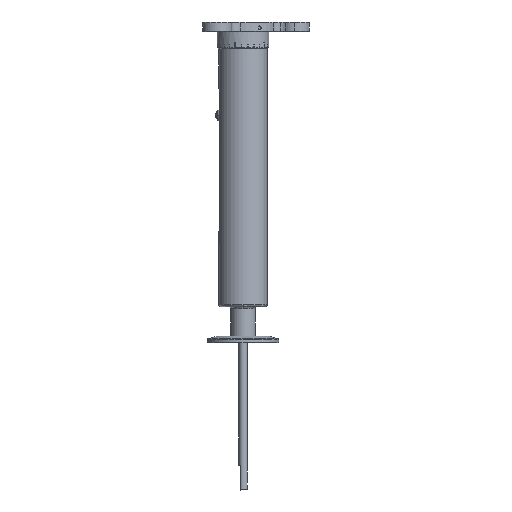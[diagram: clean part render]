
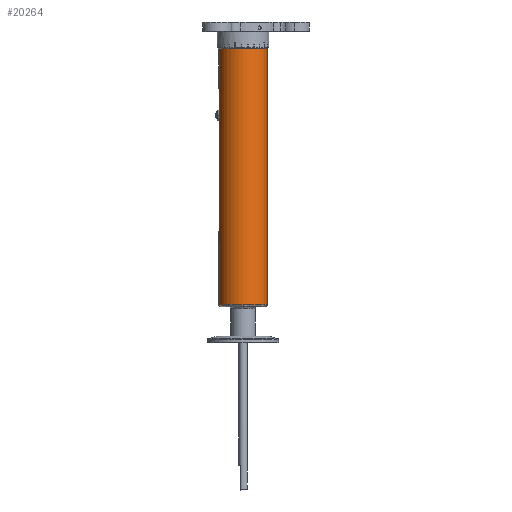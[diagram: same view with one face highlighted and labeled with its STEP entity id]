
A CAD part, left-side view. The second image highlights one B-rep face of the part: STEP entity #20264.
In plain terms, the highlighted cylindrical face has radius 18.733 mm (diameter 37.465 mm), a partial arc.
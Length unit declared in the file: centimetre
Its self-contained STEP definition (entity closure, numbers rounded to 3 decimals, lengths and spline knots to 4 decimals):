
#1137 = CARTESIAN_POINT ( 'NONE',  ( -0.4763, 1.8117, 19.1618 ) ) ;
#1144 = CARTESIAN_POINT ( 'NONE',  ( -0.4763, 1.8117, 8.8748 ) ) ;
#1207 = CARTESIAN_POINT ( 'NONE',  ( 0., -1.8733, 2.9261 ) ) ;
#1779 = DIRECTION ( 'NONE',  ( 0., -1., 0. ) ) ;
#1783 = DIRECTION ( 'NONE',  ( 0., 0., 1. ) ) ;
#1909 = CARTESIAN_POINT ( 'NONE',  ( 0., 0., 3.0175 ) ) ;
#2646 = LINE ( 'NONE', #38893, #2836 ) ;
#2789 = CIRCLE ( 'NONE', #27589, 1.8733 ) ;
#2836 = VECTOR ( 'NONE', #38912, 100. ) ;
#3047 = FACE_OUTER_BOUND ( 'NONE', #26487, .T. ) ;
#3069 = LINE ( 'NONE', #21314, #3525 ) ;
#3102 = CYLINDRICAL_SURFACE ( 'NONE', #27346, 1.8733 ) ;
#3105 = CIRCLE ( 'NONE', #27495, 1.8733 ) ;
#3157 = VECTOR ( 'NONE', #21343, 100. ) ;
#3251 = CIRCLE ( 'NONE', #26782, 1.8733 ) ;
#3301 = VECTOR ( 'NONE', #21364, 100. ) ;
#3508 = LINE ( 'NONE', #21326, #3157 ) ;
#3525 = VECTOR ( 'NONE', #21309, 100. ) ;
#3596 = LINE ( 'NONE', #21347, #3301 ) ;
#10290 = ORIENTED_EDGE ( 'NONE', *, *, #21718, .T. ) ;
#10866 = CARTESIAN_POINT ( 'NONE',  ( 0., -1.8732, 22.5196 ) ) ;
#10884 = CARTESIAN_POINT ( 'NONE',  ( 0., 1.8732, 19.638 ) ) ;
#10928 = CARTESIAN_POINT ( 'NONE',  ( 0., 1.8733, 22.5196 ) ) ;
#10965 = CARTESIAN_POINT ( 'NONE',  ( 0., 1.8732, 2.9261 ) ) ;
#17532 = CARTESIAN_POINT ( 'NONE',  ( 0., 1.8732, 8.3985 ) ) ;
#20264 = ADVANCED_FACE ( 'NONE', ( #3047 ), #3102, .T. ) ;
#21309 = DIRECTION ( 'NONE',  ( 0., 0., 1. ) ) ;
#21314 = CARTESIAN_POINT ( 'NONE',  ( 0., -1.8733, 3.0175 ) ) ;
#21326 = CARTESIAN_POINT ( 'NONE',  ( 0., 1.8732, 3.0175 ) ) ;
#21343 = DIRECTION ( 'NONE',  ( 0., 0., 1. ) ) ;
#21347 = CARTESIAN_POINT ( 'NONE',  ( 0., 1.8732, 3.0175 ) ) ;
#21364 = DIRECTION ( 'NONE',  ( 0., 0., 1. ) ) ;
#21464 = CARTESIAN_POINT ( 'NONE',  ( 0., 0., 2.9261 ) ) ;
#21465 = DIRECTION ( 'NONE',  ( 0., 0., 1. ) ) ;
#21466 = DIRECTION ( 'NONE',  ( 0., -1., 0. ) ) ;
#21717 = EDGE_CURVE ( 'NONE', #27140, #24308, #3105, .T. ) ;
#21718 = EDGE_CURVE ( 'NONE', #26595, #26974, #2789, .T. ) ;
#21720 = EDGE_CURVE ( 'NONE', #26770, #24093, #42883, .T. ) ;
#21722 = EDGE_CURVE ( 'NONE', #24093, #24088, #2646, .T. ) ;
#21723 = EDGE_CURVE ( 'NONE', #24088, #26489, #42884, .T. ) ;
#22335 = ORIENTED_EDGE ( 'NONE', *, *, #25538, .T. ) ;
#22338 = ORIENTED_EDGE ( 'NONE', *, *, #21720, .T. ) ;
#22340 = ORIENTED_EDGE ( 'NONE', *, *, #21723, .T. ) ;
#22415 = ORIENTED_EDGE ( 'NONE', *, *, #21717, .T. ) ;
#22604 = ORIENTED_EDGE ( 'NONE', *, *, #25485, .T. ) ;
#22605 = ORIENTED_EDGE ( 'NONE', *, *, #25498, .F. ) ;
#22614 = ORIENTED_EDGE ( 'NONE', *, *, #21722, .T. ) ;
#22662 = ORIENTED_EDGE ( 'NONE', *, *, #25492, .F. ) ;
#24088 = VERTEX_POINT ( 'NONE', #1144 ) ;
#24093 = VERTEX_POINT ( 'NONE', #1137 ) ;
#24151 = VERTEX_POINT ( 'NONE', #1207 ) ;
#24308 = VERTEX_POINT ( 'NONE', #41295 ) ;
#25485 = EDGE_CURVE ( 'NONE', #24151, #26595, #3069, .T. ) ;
#25492 = EDGE_CURVE ( 'NONE', #26770, #26974, #3508, .T. ) ;
#25498 = EDGE_CURVE ( 'NONE', #27140, #26489, #3596, .T. ) ;
#25538 = EDGE_CURVE ( 'NONE', #24308, #24151, #3251, .T. ) ;
#26487 = EDGE_LOOP ( 'NONE', ( #22605, #22415, #22335, #22604, #10290, #22662, #22338, #22614, #22340 ) ) ;
#26489 = VERTEX_POINT ( 'NONE', #17532 ) ;
#26595 = VERTEX_POINT ( 'NONE', #10866 ) ;
#26770 = VERTEX_POINT ( 'NONE', #10884 ) ;
#26782 = AXIS2_PLACEMENT_3D ( 'NONE', #21464, #21465, #21466 ) ;
#26974 = VERTEX_POINT ( 'NONE', #10928 ) ;
#27140 = VERTEX_POINT ( 'NONE', #10965 ) ;
#27346 = AXIS2_PLACEMENT_3D ( 'NONE', #1909, #1783, #1779 ) ;
#27495 = AXIS2_PLACEMENT_3D ( 'NONE', #38883, #38884, #38885 ) ;
#27589 = AXIS2_PLACEMENT_3D ( 'NONE', #38888, #38889, #38890 ) ;
#38883 = CARTESIAN_POINT ( 'NONE',  ( 0., 0., 2.9261 ) ) ;
#38884 = DIRECTION ( 'NONE',  ( 0., 0., 1. ) ) ;
#38885 = DIRECTION ( 'NONE',  ( 0., -1., 0. ) ) ;
#38886 = CARTESIAN_POINT ( 'NONE',  ( -0.0316, 1.8733, 19.638 ) ) ;
#38887 = CARTESIAN_POINT ( 'NONE',  ( -0.0626, 1.8725, 19.6349 ) ) ;
#38888 = CARTESIAN_POINT ( 'NONE',  ( 0., 0., 22.5196 ) ) ;
#38889 = DIRECTION ( 'NONE',  ( 0., 0., -1. ) ) ;
#38890 = DIRECTION ( 'NONE',  ( 0., -1., 0. ) ) ;
#38891 = CARTESIAN_POINT ( 'NONE',  ( -0.4731, 1.8125, 8.8121 ) ) ;
#38892 = CARTESIAN_POINT ( 'NONE',  ( 0., 1.8732, 19.638 ) ) ;
#38893 = CARTESIAN_POINT ( 'NONE',  ( -0.4763, 1.8117, 3.0175 ) ) ;
#38894 = CARTESIAN_POINT ( 'NONE',  ( -0.1236, 1.8694, 19.6227 ) ) ;
#38895 = CARTESIAN_POINT ( 'NONE',  ( -0.1539, 1.8671, 19.6135 ) ) ;
#38896 = CARTESIAN_POINT ( 'NONE',  ( -0.2115, 1.8615, 19.5896 ) ) ;
#38897 = CARTESIAN_POINT ( 'NONE',  ( -0.2388, 1.8581, 19.575 ) ) ;
#38898 = CARTESIAN_POINT ( 'NONE',  ( -0.2905, 1.8508, 19.5404 ) ) ;
#38899 = CARTESIAN_POINT ( 'NONE',  ( -0.3148, 1.8467, 19.5204 ) ) ;
#38900 = CARTESIAN_POINT ( 'NONE',  ( -0.3585, 1.8388, 19.4767 ) ) ;
#38901 = CARTESIAN_POINT ( 'NONE',  ( -0.3782, 1.8348, 19.4529 ) ) ;
#38902 = CARTESIAN_POINT ( 'NONE',  ( -0.413, 1.8272, 19.4009 ) ) ;
#38903 = CARTESIAN_POINT ( 'NONE',  ( -0.4277, 1.8238, 19.3734 ) ) ;
#38904 = CARTESIAN_POINT ( 'NONE',  ( -0.4516, 1.818, 19.3162 ) ) ;
#38905 = CARTESIAN_POINT ( 'NONE',  ( -0.4608, 1.8157, 19.2862 ) ) ;
#38906 = CARTESIAN_POINT ( 'NONE',  ( -0.4731, 1.8125, 19.2245 ) ) ;
#38907 = CARTESIAN_POINT ( 'NONE',  ( -0.4763, 1.8117, 19.1933 ) ) ;
#38908 = CARTESIAN_POINT ( 'NONE',  ( -0.4763, 1.8117, 19.1618 ) ) ;
#38910 = CARTESIAN_POINT ( 'NONE',  ( -0.4763, 1.8117, 8.8432 ) ) ;
#38912 = DIRECTION ( 'NONE',  ( 0., 0., -1. ) ) ;
#38914 = CARTESIAN_POINT ( 'NONE',  ( -0.4763, 1.8117, 8.8748 ) ) ;
#38916 = CARTESIAN_POINT ( 'NONE',  ( -0.461, 1.8157, 8.7511 ) ) ;
#38917 = CARTESIAN_POINT ( 'NONE',  ( -0.4518, 1.818, 8.7208 ) ) ;
#38918 = CARTESIAN_POINT ( 'NONE',  ( -0.4278, 1.8238, 8.6633 ) ) ;
#38919 = CARTESIAN_POINT ( 'NONE',  ( -0.4132, 1.8272, 8.636 ) ) ;
#38920 = CARTESIAN_POINT ( 'NONE',  ( -0.3787, 1.8347, 8.5843 ) ) ;
#38921 = CARTESIAN_POINT ( 'NONE',  ( -0.3587, 1.8387, 8.56 ) ) ;
#38922 = CARTESIAN_POINT ( 'NONE',  ( -0.315, 1.8467, 8.5162 ) ) ;
#38923 = CARTESIAN_POINT ( 'NONE',  ( -0.2911, 1.8507, 8.4966 ) ) ;
#38924 = CARTESIAN_POINT ( 'NONE',  ( -0.2392, 1.8581, 8.4617 ) ) ;
#38925 = CARTESIAN_POINT ( 'NONE',  ( -0.2117, 1.8615, 8.447 ) ) ;
#38926 = CARTESIAN_POINT ( 'NONE',  ( -0.1545, 1.8671, 8.4232 ) ) ;
#38927 = CARTESIAN_POINT ( 'NONE',  ( -0.1244, 1.8694, 8.414 ) ) ;
#38928 = CARTESIAN_POINT ( 'NONE',  ( -0.0628, 1.8725, 8.4016 ) ) ;
#38929 = CARTESIAN_POINT ( 'NONE',  ( -0.0316, 1.8732, 8.3985 ) ) ;
#38930 = CARTESIAN_POINT ( 'NONE',  ( 0., 1.8732, 8.3985 ) ) ;
#41295 = CARTESIAN_POINT ( 'NONE',  ( -1.8733, 0., 2.9261 ) ) ;
#42883 = B_SPLINE_CURVE_WITH_KNOTS ( 'NONE', 3,
 ( #38892, #38886, #38887, #38894, #38895, #38896, #38897, #38898, #38899, #38900, #38901, #38902, #38903, #38904, #38905, #38906, #38907, #38908 ),
 .UNSPECIFIED., .F., .F.,
 ( 4, 2, 2, 2, 2, 2, 2, 2, 4 ),
 ( 0., 0.0009, 0.0019, 0.0028, 0.0037, 0.0047, 0.0056, 0.0065, 0.0075 ),
 .UNSPECIFIED. ) ;
#42884 = B_SPLINE_CURVE_WITH_KNOTS ( 'NONE', 3,
 ( #38914, #38910, #38891, #38916, #38917, #38918, #38919, #38920, #38921, #38922, #38923, #38924, #38925, #38926, #38927, #38928, #38929, #38930 ),
 .UNSPECIFIED., .F., .F.,
 ( 4, 2, 2, 2, 2, 2, 2, 2, 4 ),
 ( 0., 0.0009, 0.0019, 0.0028, 0.0037, 0.0047, 0.0056, 0.0065, 0.0075 ),
 .UNSPECIFIED. ) ;
